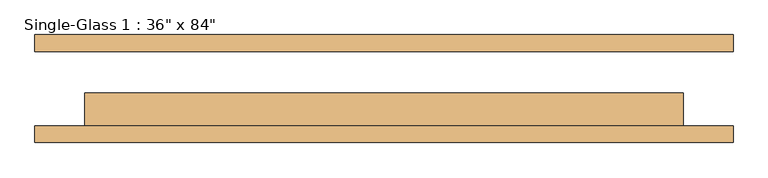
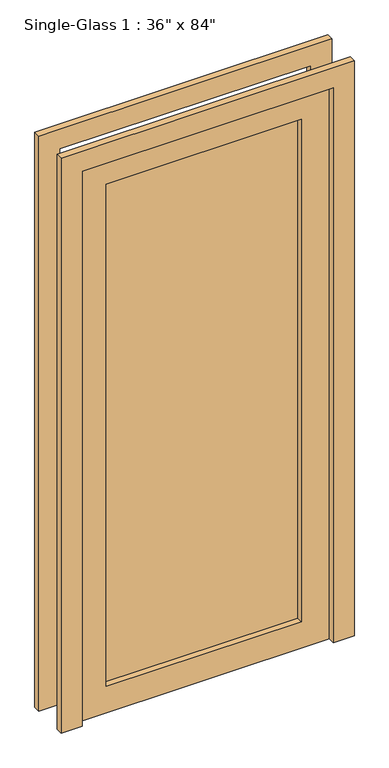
"""IFC4 building model written with IfcOpenShell, lengths in millimetres: door geometry."""

from ifc_helpers import new_model, si_unit, frame, origin, place, context, project, spatial, polyline, outline, extrude, source, transform, mapped, element, save


def door_d71a8095(model_context):
    return source(origin(), model_context, "Body", "SweptSolid", [
        extrude(outline(polyline([(2133.6, 457.2), (0.0, 457.2), (0.0, 533.4), (2209.8, 533.4), (2209.8, -533.4), (0.0, -533.4), (0.0, -457.2), (2133.6, -457.2), (2133.6, 457.2)])), frame((0.0, 57.15, 0.0), z_axis=(0.0, 1.0, 0.0), x_axis=(0.0, 0.0, 1.0)), (0.0, 0.0, 1.0), 25.4),
        extrude(outline(polyline([(2133.6, 457.2), (0.0, 457.2), (0.0, 533.4), (2209.8, 533.4), (2209.8, -533.4), (0.0, -533.4), (0.0, -457.2), (2133.6, -457.2), (2133.6, 457.2)])), frame((0.0, -82.55, 0.0), z_axis=(0.0, 1.0, 0.0), x_axis=(0.0, 0.0, 1.0)), (0.0, 0.0, 1.0), 25.4),
        extrude(outline(polyline([(355.6, -28.575), (355.6, -34.925), (-355.6, -34.925), (-355.6, -28.575), (355.6, -28.575)])), frame((0.0, 0.0, 101.6), z_axis=(0.0, 0.0, 1.0), x_axis=(1.0, 0.0, 0.0)), (0.0, 0.0, 1.0), 1930.4),
        extrude(outline(polyline([(2133.6, 457.2), (2133.6, -457.2), (0.0, -457.2), (0.0, 457.2), (2133.6, 457.2)]), holes=[polyline([(2032.0, -355.6), (2032.0, 355.6), (101.6, 355.6), (101.6, -355.6), (2032.0, -355.6)])]), frame((0.0, -57.15, 0.0), z_axis=(0.0, 1.0, 0.0), x_axis=(0.0, 0.0, 1.0)), (0.0, 0.0, 1.0), 50.8),
    ])


if __name__ == "__main__":
    model = new_model("IFC4")
    model_context = context("Model", 3, world=origin())
    ifc_project = project(units=[si_unit("LENGTHUNIT", "METRE", prefix="MILLI")], contexts=[model_context])
    site = spatial("IfcSite", under=ifc_project)
    building = spatial("IfcBuilding", under=site)
    placement = place(None, origin())
    door_shape = door_d71a8095(model_context)
    element("IfcDoor", 1, ObjectType="Single-Glass 1 : 36\" x 84\"", at=placement, inside=building, context=model_context, shape_type="MappedRepresentation", body=[
        mapped(door_shape, transform((0.0, 0.0, 0.0), x_axis=(1.0, 0.0, 0.0), y_axis=(0.0, 1.0, 0.0), z_axis=(0.0, 0.0, 1.0))),
    ])
    save(model, "model.ifc")
